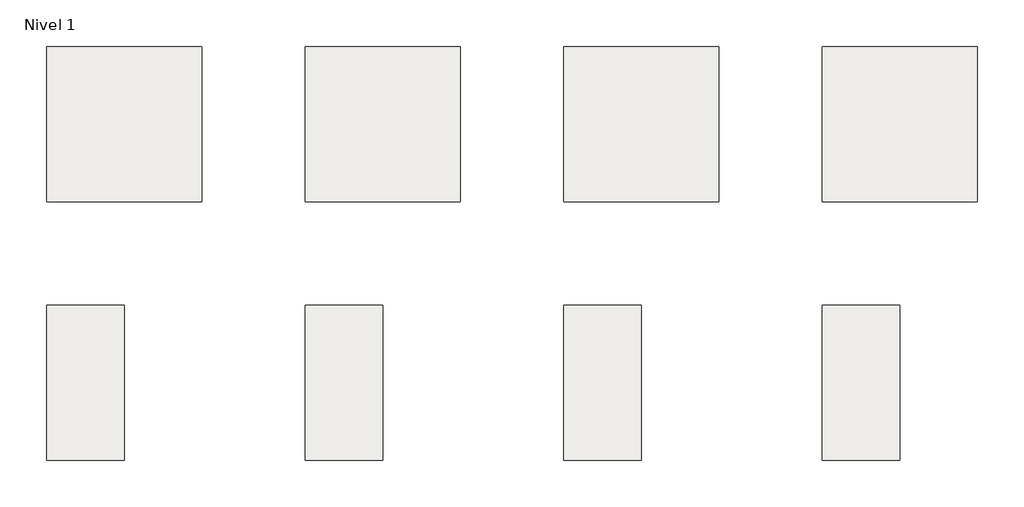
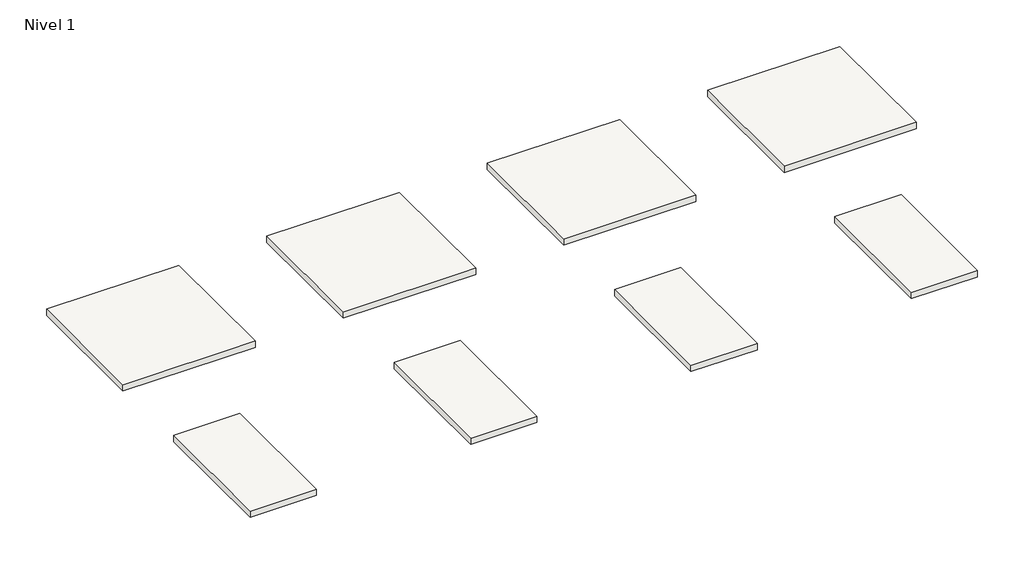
# One storey: 8 slabs.
"""IFC4 building model written with IfcOpenShell, lengths in millimetres."""

from ifc_helpers import new_model, si_unit, frame, origin, place, context, project, spatial, polyline, outline, extrude, element, save

model = new_model("IFC4")

# Units and contexts
model_context = context("Model", 3, world=origin())
ifc_project = project(units=[si_unit("LENGTHUNIT", "METRE", prefix="MILLI")], contexts=[model_context])

# Site, building, storey
site = spatial("IfcSite", under=ifc_project)
building = spatial("IfcBuilding", under=site)
storey = spatial("IfcBuildingStorey", under=building, Name="Nivel 1", Elevation=0.0)

# Slabs
placement = place(None, origin())
element("IfcSlab", 1, ObjectType="Porfido Brown 120X120 5,6", at=placement, inside=storey, context=model_context, shape_type="SweptSolid", body=[
    extrude(outline(polyline([(0.0, 1200.0), (1200.0, 1200.0), (1200.0, 0.0), (0.0, 0.0), (0.0, 1200.0)])), frame((0.0, 0.0, -60.6), z_axis=(0.0, 0.0, 1.0), x_axis=(1.0, 0.0, 0.0)), (0.0, 0.0, 1.0), 60.6),
])
element("IfcSlab", 2, ObjectType="Porfido Graphite 120X120 5,6", at=placement, inside=storey, context=model_context, shape_type="SweptSolid", body=[
    extrude(outline(polyline([(2000.0, 1200.0), (3200.0, 1200.0), (3200.0, 0.0), (2000.0, 0.0), (2000.0, 1200.0)])), frame((0.0, 0.0, -60.6), z_axis=(0.0, 0.0, 1.0), x_axis=(1.0, 0.0, 0.0)), (0.0, 0.0, 1.0), 60.6),
])
element("IfcSlab", 3, ObjectType="Porfido Sand 120X120 5,6", at=placement, inside=storey, context=model_context, shape_type="SweptSolid", body=[
    extrude(outline(polyline([(4000.0, 1200.0), (5200.0, 1200.0), (5200.0, 0.0), (4000.0, 0.0), (4000.0, 1200.0)])), frame((0.0, 0.0, -60.6), z_axis=(0.0, 0.0, 1.0), x_axis=(1.0, 0.0, 0.0)), (0.0, 0.0, 1.0), 60.6),
])
element("IfcSlab", 4, ObjectType="Porfido Taupe 120X120 5,6", at=placement, inside=storey, context=model_context, shape_type="SweptSolid", body=[
    extrude(outline(polyline([(6000.0, 1200.0), (7200.0, 1200.0), (7200.0, 0.0), (6000.0, 0.0), (6000.0, 1200.0)])), frame((0.0, 0.0, -60.6), z_axis=(0.0, 0.0, 1.0), x_axis=(1.0, 0.0, 0.0)), (0.0, 0.0, 1.0), 60.6),
])
element("IfcSlab", 5, ObjectType="Porfido Brown 60X120 5,6", at=placement, inside=storey, context=model_context, shape_type="SweptSolid", body=[
    extrude(outline(polyline([(0.0, -800.0), (600.0, -800.0), (600.0, -2000.0), (0.0, -2000.0), (0.0, -800.0)])), frame((0.0, 0.0, -60.6), z_axis=(0.0, 0.0, 1.0), x_axis=(1.0, 0.0, 0.0)), (0.0, 0.0, 1.0), 60.6),
])
element("IfcSlab", 6, ObjectType="Porfido Graphite 60X120 5,6", at=placement, inside=storey, context=model_context, shape_type="SweptSolid", body=[
    extrude(outline(polyline([(2000.0, -800.0), (2600.0, -800.0), (2600.0, -2000.0), (2000.0, -2000.0), (2000.0, -800.0)])), frame((0.0, 0.0, -60.6), z_axis=(0.0, 0.0, 1.0), x_axis=(1.0, 0.0, 0.0)), (0.0, 0.0, 1.0), 60.6),
])
element("IfcSlab", 7, ObjectType="Porfido Sand 60X120 5,6", at=placement, inside=storey, context=model_context, shape_type="SweptSolid", body=[
    extrude(outline(polyline([(4000.0, -800.0), (4600.0, -800.0), (4600.0, -2000.0), (4000.0, -2000.0), (4000.0, -800.0)])), frame((0.0, 0.0, -60.6), z_axis=(0.0, 0.0, 1.0), x_axis=(1.0, 0.0, 0.0)), (0.0, 0.0, 1.0), 60.6),
])
element("IfcSlab", 8, ObjectType="Porfido Taupe 60X120 5,6", at=placement, inside=storey, context=model_context, shape_type="SweptSolid", body=[
    extrude(outline(polyline([(6000.0, -800.0), (6600.0, -800.0), (6600.0, -2000.0), (6000.0, -2000.0), (6000.0, -800.0)])), frame((0.0, 0.0, -60.6), z_axis=(0.0, 0.0, 1.0), x_axis=(1.0, 0.0, 0.0)), (0.0, 0.0, 1.0), 60.6),
])

save(model, "model.ifc")
